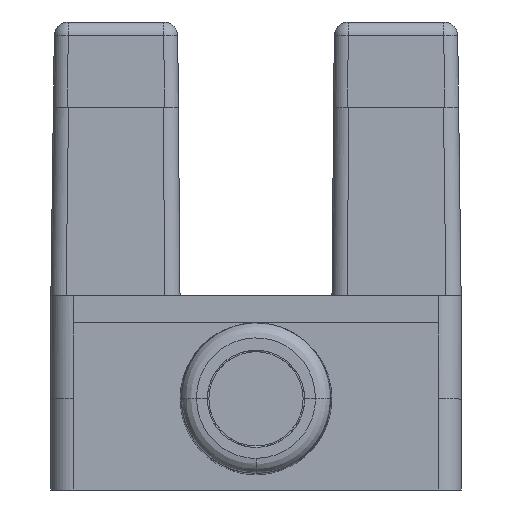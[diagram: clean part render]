
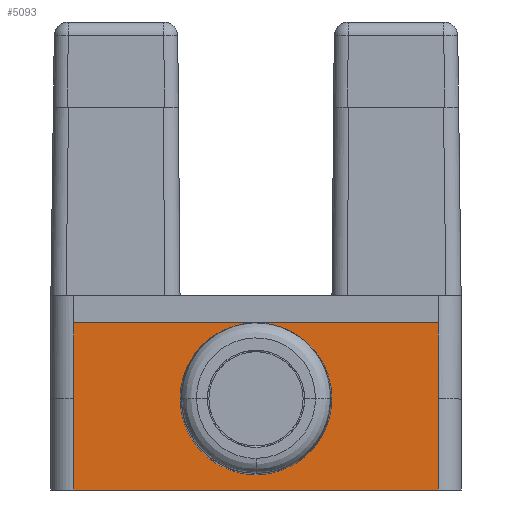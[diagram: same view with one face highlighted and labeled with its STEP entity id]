
A CAD part, front view. The second image highlights one B-rep face of the part: STEP entity #5093.
In plain terms, the highlighted planar face has unit normal (0, -1, 0).
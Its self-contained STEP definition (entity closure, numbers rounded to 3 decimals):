
#57 = ORIENTED_EDGE ( 'NONE', *, *, #7134, .F. ) ;
#131 = CARTESIAN_POINT ( 'NONE',  ( -2.5, -14.4, -0.035 ) ) ;
#272 = CARTESIAN_POINT ( 'NONE',  ( -1.524, -14.4, 1.788 ) ) ;
#274 = CARTESIAN_POINT ( 'NONE',  ( 6., -14.4, -3.2 ) ) ;
#428 = B_SPLINE_CURVE_WITH_KNOTS ( 'NONE', 3,
 ( #9542, #9175, #8907, #8871, #8756, #8728, #8677, #8534, #8387, #8315, #8280, #8261, #8172, #7879, #7843, #7727 ),
 .UNSPECIFIED., .F., .F.,
 ( 4, 2, 2, 2, 2, 2, 2, 4 ),
 ( 0., 0., 0.001, 0.001, 0.002, 0.002, 0.003, 0.004 ),
 .UNSPECIFIED. ) ;
#521 = ORIENTED_EDGE ( 'NONE', *, *, #2326, .F. ) ;
#529 = EDGE_CURVE ( 'NONE', #10809, #5588, #8487, .T. ) ;
#560 = LINE ( 'NONE', #2446, #5408 ) ;
#723 = ORIENTED_EDGE ( 'NONE', *, *, #8990, .T. ) ;
#828 = ORIENTED_EDGE ( 'NONE', *, *, #9281, .F. ) ;
#990 = LINE ( 'NONE', #5183, #3271 ) ;
#1089 = DIRECTION ( 'NONE',  ( 1., 0., 0. ) ) ;
#1142 = CIRCLE ( 'NONE', #6267, 2.5 ) ;
#1152 = CARTESIAN_POINT ( 'NONE',  ( 6., -14.4, 2.3 ) ) ;
#1186 = CARTESIAN_POINT ( 'NONE',  ( -6., -14.4, 18.556 ) ) ;
#1209 = ORIENTED_EDGE ( 'NONE', *, *, #1451, .F. ) ;
#1223 = LINE ( 'NONE', #1186, #9925 ) ;
#1256 = AXIS2_PLACEMENT_3D ( 'NONE', #3786, #10030, #2422 ) ;
#1356 = CARTESIAN_POINT ( 'NONE',  ( 0., -14.4, 2.3 ) ) ;
#1409 = PLANE ( 'NONE',  #1256 ) ;
#1451 = EDGE_CURVE ( 'NONE', #10809, #5595, #8807, .T. ) ;
#1548 = CARTESIAN_POINT ( 'NONE',  ( 6., -14.4, 2.3 ) ) ;
#1657 = CARTESIAN_POINT ( 'NONE',  ( -1.65, -14.4, 1.685 ) ) ;
#1855 = DIRECTION ( 'NONE',  ( 1., 0., 0. ) ) ;
#1878 = AXIS2_PLACEMENT_3D ( 'NONE', #4055, #6253, #1962 ) ;
#1962 = DIRECTION ( 'NONE',  ( 0., 0., -1. ) ) ;
#1966 = DIRECTION ( 'NONE',  ( 0., 0., -1. ) ) ;
#2000 = CARTESIAN_POINT ( 'NONE',  ( -0.805, -14.4, 2.173 ) ) ;
#2014 = ORIENTED_EDGE ( 'NONE', *, *, #6482, .F. ) ;
#2029 = LINE ( 'NONE', #6905, #4933 ) ;
#2078 = CARTESIAN_POINT ( 'NONE',  ( -1.107, -14.4, 2.047 ) ) ;
#2165 = VERTEX_POINT ( 'NONE', #6736 ) ;
#2248 = CARTESIAN_POINT ( 'NONE',  ( -6., -14.4, 18.556 ) ) ;
#2321 = VECTOR ( 'NONE', #1089, 1000. ) ;
#2326 = EDGE_CURVE ( 'NONE', #5056, #4892, #9077, .T. ) ;
#2422 = DIRECTION ( 'NONE',  ( 0., 0., -1. ) ) ;
#2440 = DIRECTION ( 'NONE',  ( -1., 0., 0. ) ) ;
#2446 = CARTESIAN_POINT ( 'NONE',  ( 6., -14.4, 18.556 ) ) ;
#2474 = CARTESIAN_POINT ( 'NONE',  ( -1.253, -14.4, 1.969 ) ) ;
#2821 = CARTESIAN_POINT ( 'NONE',  ( -1.884, -14.4, 1.452 ) ) ;
#2965 = CARTESIAN_POINT ( 'NONE',  ( -0.649, -14.4, 2.22 ) ) ;
#3030 = VERTEX_POINT ( 'NONE', #6900 ) ;
#3072 = DIRECTION ( 'NONE',  ( 0., 0., -1. ) ) ;
#3115 = ORIENTED_EDGE ( 'NONE', *, *, #5379, .T. ) ;
#3238 = CARTESIAN_POINT ( 'NONE',  ( -2.168, -14.4, 1.055 ) ) ;
#3271 = VECTOR ( 'NONE', #1855, 1000. ) ;
#3392 = CARTESIAN_POINT ( 'NONE',  ( 6., -14.4, -0.2 ) ) ;
#3448 = CARTESIAN_POINT ( 'NONE',  ( 0., -14.4, -0.2 ) ) ;
#3471 = VERTEX_POINT ( 'NONE', #3392 ) ;
#3786 = CARTESIAN_POINT ( 'NONE',  ( 6., -14.4, 18.556 ) ) ;
#3898 = DIRECTION ( 'NONE',  ( 0., 0., -1. ) ) ;
#4052 = ORIENTED_EDGE ( 'NONE', *, *, #5559, .T. ) ;
#4055 = CARTESIAN_POINT ( 'NONE',  ( 0., -14.4, -0.2 ) ) ;
#4243 = CARTESIAN_POINT ( 'NONE',  ( -2.5, -14.4, -0.2 ) ) ;
#4250 = CARTESIAN_POINT ( 'NONE',  ( -2.246, -14.4, 0.909 ) ) ;
#4594 = FACE_OUTER_BOUND ( 'NONE', #10817, .T. ) ;
#4892 = VERTEX_POINT ( 'NONE', #8972 ) ;
#4933 = VECTOR ( 'NONE', #1966, 1000. ) ;
#5040 = CARTESIAN_POINT ( 'NONE',  ( -2.419, -14.4, 0.45 ) ) ;
#5056 = VERTEX_POINT ( 'NONE', #8209 ) ;
#5093 = ADVANCED_FACE ( 'NONE', ( #4594 ), #1409, .T. ) ;
#5153 = CARTESIAN_POINT ( 'NONE',  ( -0.328, -14.4, 2.284 ) ) ;
#5183 = CARTESIAN_POINT ( 'NONE',  ( 6., -14.4, 2.3 ) ) ;
#5237 = DIRECTION ( 'NONE',  ( 0., 1., 0. ) ) ;
#5379 = EDGE_CURVE ( 'NONE', #2165, #5588, #1142, .T. ) ;
#5408 = VECTOR ( 'NONE', #7567, 1000. ) ;
#5559 = EDGE_CURVE ( 'NONE', #3030, #4892, #1223, .T. ) ;
#5588 = VERTEX_POINT ( 'NONE', #7456 ) ;
#5595 = VERTEX_POINT ( 'NONE', #1152 ) ;
#6046 = CARTESIAN_POINT ( 'NONE',  ( -6., -14.4, 2.3 ) ) ;
#6253 = DIRECTION ( 'NONE',  ( 0., 1., 0. ) ) ;
#6267 = AXIS2_PLACEMENT_3D ( 'NONE', #3448, #5237, #3898 ) ;
#6287 = CARTESIAN_POINT ( 'NONE',  ( 2.5, -14.4, -0.2 ) ) ;
#6482 = EDGE_CURVE ( 'NONE', #5595, #3471, #2029, .T. ) ;
#6569 = ORIENTED_EDGE ( 'NONE', *, *, #529, .F. ) ;
#6675 = ORIENTED_EDGE ( 'NONE', *, *, #10801, .T. ) ;
#6736 = CARTESIAN_POINT ( 'NONE',  ( 0., -14.4, -2.7 ) ) ;
#6900 = CARTESIAN_POINT ( 'NONE',  ( -6., -14.4, -0.2 ) ) ;
#6905 = CARTESIAN_POINT ( 'NONE',  ( 6., -14.4, 18.556 ) ) ;
#7082 = CIRCLE ( 'NONE', #1878, 2.5 ) ;
#7134 = EDGE_CURVE ( 'NONE', #9363, #10809, #990, .T. ) ;
#7409 = CARTESIAN_POINT ( 'NONE',  ( -2.372, -14.4, 0.606 ) ) ;
#7456 = CARTESIAN_POINT ( 'NONE',  ( -2.5, -14.4, -0.2 ) ) ;
#7567 = DIRECTION ( 'NONE',  ( 0., 0., -1. ) ) ;
#7727 = CARTESIAN_POINT ( 'NONE',  ( 0., -14.4, 2.3 ) ) ;
#7843 = CARTESIAN_POINT ( 'NONE',  ( 0.326, -14.4, 2.3 ) ) ;
#7869 = LINE ( 'NONE', #2248, #8063 ) ;
#7879 = CARTESIAN_POINT ( 'NONE',  ( 0.655, -14.4, 2.234 ) ) ;
#7947 = EDGE_CURVE ( 'NONE', #3471, #5056, #560, .T. ) ;
#7958 = CARTESIAN_POINT ( 'NONE',  ( -2.483, -14.4, 0.13 ) ) ;
#8061 = CARTESIAN_POINT ( 'NONE',  ( -1.987, -14.4, 1.325 ) ) ;
#8063 = VECTOR ( 'NONE', #3072, 1000. ) ;
#8172 = CARTESIAN_POINT ( 'NONE',  ( 1.107, -14.4, 2.048 ) ) ;
#8209 = CARTESIAN_POINT ( 'NONE',  ( 6., -14.4, -3.2 ) ) ;
#8261 = CARTESIAN_POINT ( 'NONE',  ( 1.252, -14.4, 1.97 ) ) ;
#8280 = CARTESIAN_POINT ( 'NONE',  ( 1.525, -14.4, 1.787 ) ) ;
#8315 = CARTESIAN_POINT ( 'NONE',  ( 1.651, -14.4, 1.684 ) ) ;
#8387 = CARTESIAN_POINT ( 'NONE',  ( 1.882, -14.4, 1.453 ) ) ;
#8487 = B_SPLINE_CURVE_WITH_KNOTS ( 'NONE', 3,
 ( #9769, #9653, #5153, #2965, #2000, #2078, #2474, #272, #1657, #2821, #8061, #3238, #4250, #7409, #5040, #7958, #131, #4243 ),
 .UNSPECIFIED., .F., .F.,
 ( 4, 2, 2, 2, 2, 2, 2, 2, 4 ),
 ( 0.004, 0.004, 0.005, 0.005, 0.006, 0.006, 0.007, 0.007, 0.008 ),
 .UNSPECIFIED. ) ;
#8534 = CARTESIAN_POINT ( 'NONE',  ( 1.988, -14.4, 1.324 ) ) ;
#8677 = CARTESIAN_POINT ( 'NONE',  ( 2.169, -14.4, 1.053 ) ) ;
#8728 = CARTESIAN_POINT ( 'NONE',  ( 2.246, -14.4, 0.909 ) ) ;
#8756 = CARTESIAN_POINT ( 'NONE',  ( 2.372, -14.4, 0.606 ) ) ;
#8807 = LINE ( 'NONE', #1548, #2321 ) ;
#8871 = CARTESIAN_POINT ( 'NONE',  ( 2.42, -14.4, 0.447 ) ) ;
#8907 = CARTESIAN_POINT ( 'NONE',  ( 2.484, -14.4, 0.128 ) ) ;
#8972 = CARTESIAN_POINT ( 'NONE',  ( -6., -14.4, -3.2 ) ) ;
#8990 = EDGE_CURVE ( 'NONE', #10252, #2165, #7082, .T. ) ;
#9077 = LINE ( 'NONE', #274, #9559 ) ;
#9175 = CARTESIAN_POINT ( 'NONE',  ( 2.5, -14.4, -0.035 ) ) ;
#9281 = EDGE_CURVE ( 'NONE', #10252, #10809, #428, .T. ) ;
#9363 = VERTEX_POINT ( 'NONE', #6046 ) ;
#9542 = CARTESIAN_POINT ( 'NONE',  ( 2.5, -14.4, -0.2 ) ) ;
#9559 = VECTOR ( 'NONE', #2440, 1000. ) ;
#9653 = CARTESIAN_POINT ( 'NONE',  ( -0.163, -14.4, 2.3 ) ) ;
#9769 = CARTESIAN_POINT ( 'NONE',  ( 0., -14.4, 2.3 ) ) ;
#9925 = VECTOR ( 'NONE', #10054, 1000. ) ;
#9941 = ORIENTED_EDGE ( 'NONE', *, *, #7947, .F. ) ;
#10030 = DIRECTION ( 'NONE',  ( 0., -1., 0. ) ) ;
#10054 = DIRECTION ( 'NONE',  ( 0., 0., -1. ) ) ;
#10252 = VERTEX_POINT ( 'NONE', #6287 ) ;
#10801 = EDGE_CURVE ( 'NONE', #9363, #3030, #7869, .T. ) ;
#10809 = VERTEX_POINT ( 'NONE', #1356 ) ;
#10817 = EDGE_LOOP ( 'NONE', ( #828, #723, #3115, #6569, #57, #6675, #4052, #521, #9941, #2014, #1209 ) ) ;
